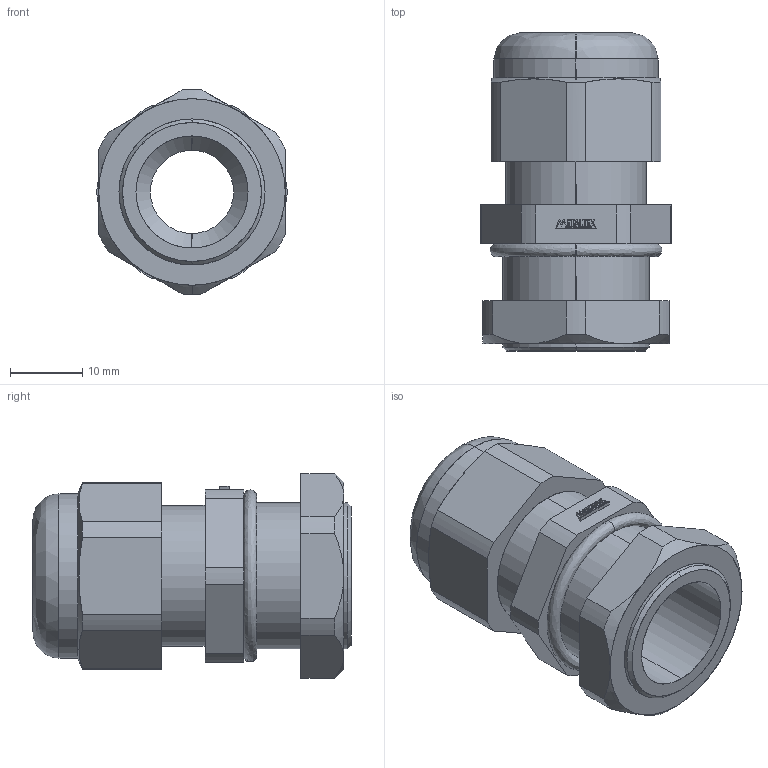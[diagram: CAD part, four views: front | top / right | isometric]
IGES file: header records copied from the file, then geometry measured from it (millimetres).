
Start section: SolidWorks IGES file using analytic representation for surfaces
Global section: file name: D:\X - Arquivos\PROEX\Empresas\P11 - METALTEX\01 - Produtos\IGES\Terceira remessa\Etapa 2\CH-PG13.5L.IGS; native system: SolidWorks 2012; preprocessor: SolidWorks 2012; author: Usuario; date: 180207.123800; units: millimetre
Bounding box: 26.29 x 44 x 28.34 mm (x, y, z)
Surface area: 6763.6 mm2 (no closed solid volume)
Topology: 0 solids, 0 shells, 174 faces, 1313 edges, 1313 vertices
Faces by surface type: bspline 125, revolution 49
